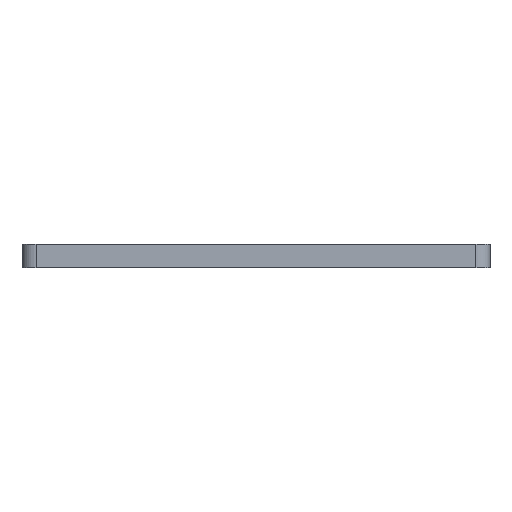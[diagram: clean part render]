
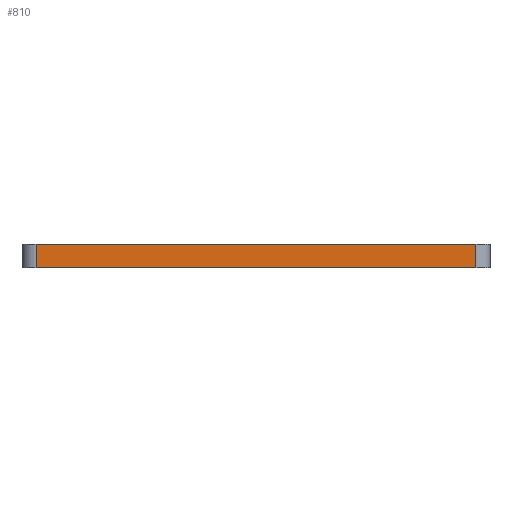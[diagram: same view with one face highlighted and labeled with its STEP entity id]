
A CAD part, front view. The second image highlights one B-rep face of the part: STEP entity #810.
In plain terms, the highlighted planar face has unit normal (0, -1, 0).
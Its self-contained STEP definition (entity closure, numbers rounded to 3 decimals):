
#44 = PLANE('',#45);
#45 = AXIS2_PLACEMENT_3D('',#46,#47,#48);
#46 = CARTESIAN_POINT('',(-20.,-40.,2.));
#47 = DIRECTION('',(0.,0.,1.));
#48 = DIRECTION('',(1.,0.,0.));
#72 = CYLINDRICAL_SURFACE('',#73,1.2);
#73 = AXIS2_PLACEMENT_3D('',#74,#75,#76);
#74 = CARTESIAN_POINT('',(-18.8,-38.8,0.));
#75 = DIRECTION('',(0.,0.,1.));
#76 = DIRECTION('',(-1.,-0.,0.));
#100 = PLANE('',#101);
#101 = AXIS2_PLACEMENT_3D('',#102,#103,#104);
#102 = CARTESIAN_POINT('',(-20.,-40.,0.));
#103 = DIRECTION('',(0.,0.,1.));
#104 = DIRECTION('',(1.,0.,0.));
#143 = VERTEX_POINT('',#144);
#144 = CARTESIAN_POINT('',(-18.8,-40.,2.));
#166 = EDGE_CURVE('',#143,#167,#169,.T.);
#167 = VERTEX_POINT('',#168);
#168 = CARTESIAN_POINT('',(18.8,-40.,2.));
#169 = SURFACE_CURVE('',#170,(#174,#181),.PCURVE_S1.);
#170 = LINE('',#171,#172);
#171 = CARTESIAN_POINT('',(-20.,-40.,2.));
#172 = VECTOR('',#173,1.);
#173 = DIRECTION('',(1.,0.,0.));
#174 = PCURVE('',#44,#175);
#175 = DEFINITIONAL_REPRESENTATION('',(#176),#180);
#176 = LINE('',#177,#178);
#177 = CARTESIAN_POINT('',(0.,0.));
#178 = VECTOR('',#179,1.);
#179 = DIRECTION('',(1.,0.));
#180 = ( GEOMETRIC_REPRESENTATION_CONTEXT(2) 
PARAMETRIC_REPRESENTATION_CONTEXT() REPRESENTATION_CONTEXT('2D SPACE',''
  ) );
#181 = PCURVE('',#182,#187);
#182 = PLANE('',#183);
#183 = AXIS2_PLACEMENT_3D('',#184,#185,#186);
#184 = CARTESIAN_POINT('',(-20.,-40.,0.));
#185 = DIRECTION('',(0.,1.,0.));
#186 = DIRECTION('',(0.,0.,1.));
#187 = DEFINITIONAL_REPRESENTATION('',(#188),#192);
#188 = LINE('',#189,#190);
#189 = CARTESIAN_POINT('',(2.,0.));
#190 = VECTOR('',#191,1.);
#191 = DIRECTION('',(0.,1.));
#192 = ( GEOMETRIC_REPRESENTATION_CONTEXT(2) 
PARAMETRIC_REPRESENTATION_CONTEXT() REPRESENTATION_CONTEXT('2D SPACE',''
  ) );
#215 = CYLINDRICAL_SURFACE('',#216,1.2);
#216 = AXIS2_PLACEMENT_3D('',#217,#218,#219);
#217 = CARTESIAN_POINT('',(18.8,-38.8,0.));
#218 = DIRECTION('',(0.,0.,1.));
#219 = DIRECTION('',(1.,0.,-0.));
#482 = VERTEX_POINT('',#483);
#483 = CARTESIAN_POINT('',(-18.8,-40.,0.));
#505 = EDGE_CURVE('',#482,#143,#506,.T.);
#506 = SURFACE_CURVE('',#507,(#511,#518),.PCURVE_S1.);
#507 = LINE('',#508,#509);
#508 = CARTESIAN_POINT('',(-18.8,-40.,0.));
#509 = VECTOR('',#510,1.);
#510 = DIRECTION('',(0.,0.,1.));
#511 = PCURVE('',#72,#512);
#512 = DEFINITIONAL_REPRESENTATION('',(#513),#517);
#513 = LINE('',#514,#515);
#514 = CARTESIAN_POINT('',(1.571,0.));
#515 = VECTOR('',#516,1.);
#516 = DIRECTION('',(0.,1.));
#517 = ( GEOMETRIC_REPRESENTATION_CONTEXT(2) 
PARAMETRIC_REPRESENTATION_CONTEXT() REPRESENTATION_CONTEXT('2D SPACE',''
  ) );
#518 = PCURVE('',#182,#519);
#519 = DEFINITIONAL_REPRESENTATION('',(#520),#524);
#520 = LINE('',#521,#522);
#521 = CARTESIAN_POINT('',(0.,1.2));
#522 = VECTOR('',#523,1.);
#523 = DIRECTION('',(1.,0.));
#524 = ( GEOMETRIC_REPRESENTATION_CONTEXT(2) 
PARAMETRIC_REPRESENTATION_CONTEXT() REPRESENTATION_CONTEXT('2D SPACE',''
  ) );
#587 = EDGE_CURVE('',#482,#588,#590,.T.);
#588 = VERTEX_POINT('',#589);
#589 = CARTESIAN_POINT('',(18.8,-40.,0.));
#590 = SURFACE_CURVE('',#591,(#595,#602),.PCURVE_S1.);
#591 = LINE('',#592,#593);
#592 = CARTESIAN_POINT('',(-20.,-40.,0.));
#593 = VECTOR('',#594,1.);
#594 = DIRECTION('',(1.,0.,0.));
#595 = PCURVE('',#100,#596);
#596 = DEFINITIONAL_REPRESENTATION('',(#597),#601);
#597 = LINE('',#598,#599);
#598 = CARTESIAN_POINT('',(0.,0.));
#599 = VECTOR('',#600,1.);
#600 = DIRECTION('',(1.,0.));
#601 = ( GEOMETRIC_REPRESENTATION_CONTEXT(2) 
PARAMETRIC_REPRESENTATION_CONTEXT() REPRESENTATION_CONTEXT('2D SPACE',''
  ) );
#602 = PCURVE('',#182,#603);
#603 = DEFINITIONAL_REPRESENTATION('',(#604),#608);
#604 = LINE('',#605,#606);
#605 = CARTESIAN_POINT('',(0.,0.));
#606 = VECTOR('',#607,1.);
#607 = DIRECTION('',(0.,1.));
#608 = ( GEOMETRIC_REPRESENTATION_CONTEXT(2) 
PARAMETRIC_REPRESENTATION_CONTEXT() REPRESENTATION_CONTEXT('2D SPACE',''
  ) );
#810 = ADVANCED_FACE('',(#811),#182,.F.);
#811 = FACE_BOUND('',#812,.F.);
#812 = EDGE_LOOP('',(#813,#814,#815,#816));
#813 = ORIENTED_EDGE('',*,*,#587,.F.);
#814 = ORIENTED_EDGE('',*,*,#505,.T.);
#815 = ORIENTED_EDGE('',*,*,#166,.T.);
#816 = ORIENTED_EDGE('',*,*,#817,.F.);
#817 = EDGE_CURVE('',#588,#167,#818,.T.);
#818 = SURFACE_CURVE('',#819,(#823,#830),.PCURVE_S1.);
#819 = LINE('',#820,#821);
#820 = CARTESIAN_POINT('',(18.8,-40.,0.));
#821 = VECTOR('',#822,1.);
#822 = DIRECTION('',(0.,0.,1.));
#823 = PCURVE('',#182,#824);
#824 = DEFINITIONAL_REPRESENTATION('',(#825),#829);
#825 = LINE('',#826,#827);
#826 = CARTESIAN_POINT('',(0.,38.8));
#827 = VECTOR('',#828,1.);
#828 = DIRECTION('',(1.,0.));
#829 = ( GEOMETRIC_REPRESENTATION_CONTEXT(2) 
PARAMETRIC_REPRESENTATION_CONTEXT() REPRESENTATION_CONTEXT('2D SPACE',''
  ) );
#830 = PCURVE('',#215,#831);
#831 = DEFINITIONAL_REPRESENTATION('',(#832),#836);
#832 = LINE('',#833,#834);
#833 = CARTESIAN_POINT('',(-1.571,0.));
#834 = VECTOR('',#835,1.);
#835 = DIRECTION('',(-0.,1.));
#836 = ( GEOMETRIC_REPRESENTATION_CONTEXT(2) 
PARAMETRIC_REPRESENTATION_CONTEXT() REPRESENTATION_CONTEXT('2D SPACE',''
  ) );
